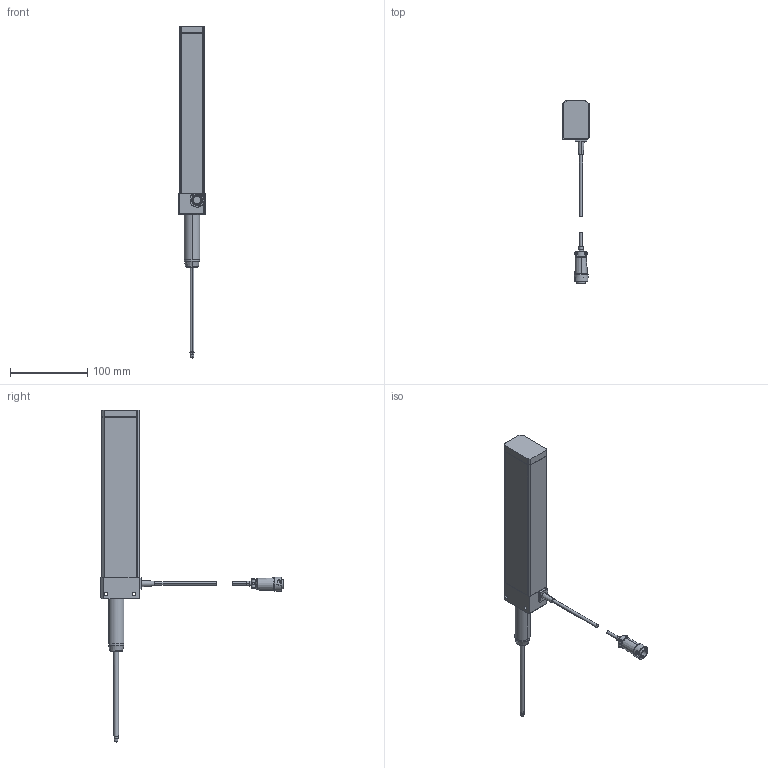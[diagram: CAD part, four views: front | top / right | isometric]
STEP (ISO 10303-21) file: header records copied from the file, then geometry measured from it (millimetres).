
FILE_DESCRIPTION(('Creo Elements/Direct Modeling STEP Export'),'2;1');
FILE_NAME('LG-01100.stp','2017-05-25T15:54:49',(''),(''),'Creo Elements/Direct Modeling STEP processor for AP214 (Solid Model)','Creo Elements/Direct Modeling 18.1B 29-Sep-2012 (C) Parametric Technology GmbH','');
FILE_SCHEMA(('AUTOMOTIVE_DESIGN { 1 0 10303 214 1 1 1 1 }'));
Length unit declared in the file: millimetre
Products named in the file (3): LG-01100_connector; LG-01100_gauge
Assembly tree (1 placements, depth 2):
  LG-01100_connector
    LG-01100_connector
  LG-01100_gauge
Bounding box: 34 x 236 x 429.5 mm (x, y, z)
Volume: 423805.2 mm3; surface area: 54827.2 mm2
Topology: 2 solids, 2 shells, 264 faces, 702 edges, 456 vertices
Faces by surface type: plane 122, cylinder 104, cone 22, torus 10, sphere 6
Entity records: 8114 total; most frequent: CARTESIAN_POINT 1635, ORIENTED_EDGE 1392, DIRECTION 1306, EDGE_CURVE 696, AXIS2_PLACEMENT_3D 471, VERTEX_POINT 456, VECTOR 364, LINE 364
